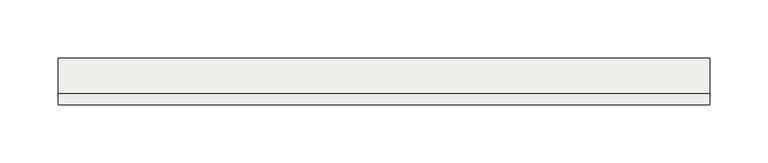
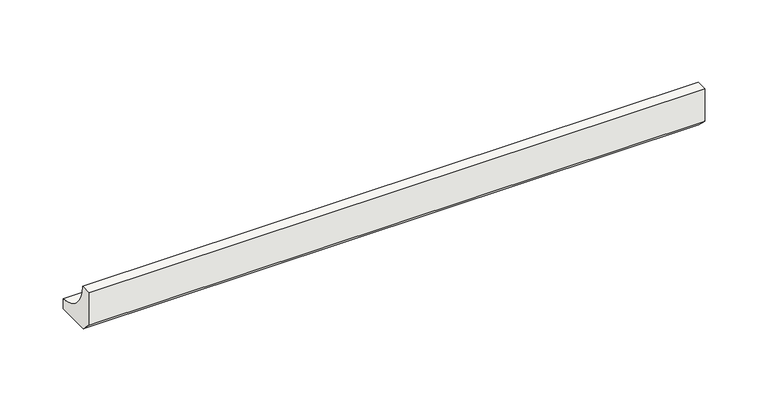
"""IFC4 building model written with IfcOpenShell, lengths in millimetres: slab geometry, ROSA GRES_112 : Pieza 112_Aqua_Plomo_Liso."""

from ifc_helpers import new_model, si_unit, point, frame, frame_2d, origin, place, context, project, spatial, polyline, circle_curve, trimmed, segment, composite_curve, outline, extrude, source, transform, mapped, element, save


def slab_a584c216(model_context):
    return source(origin(), model_context, "Body", "SweptSolid", [
        extrude(outline(composite_curve([segment(polyline([(0.0, 8.7114978), (0.0, 40.0), (9.9734114, 40.0)]), True, "CONTINUOUS"), segment(trimmed(circle_curve(frame_2d((39.9955547, 39.9955547)), 30.0221435), [point((9.9734114, 40.0))], [point((40.0, 9.9734114))], True, "CARTESIAN"), True, "CONTINUOUS"), segment(polyline([(40.0, 9.9734114), (40.0, 0.0), (8.7114978, 0.0), (0.0, 8.7114978)]), True, "CONTINUOUS")], self_intersect=False)), frame((0.0, 0.0, 0.0), z_axis=(1.0, 0.0, 0.0), x_axis=(0.0, 1.0, 0.0)), (0.0, 0.0, 1.0), 559.875),
    ])


if __name__ == "__main__":
    model = new_model("IFC4")
    model_context = context("Model", 3, world=origin())
    ifc_project = project(units=[si_unit("LENGTHUNIT", "METRE", prefix="MILLI")], contexts=[model_context])
    site = spatial("IfcSite", under=ifc_project)
    building = spatial("IfcBuilding", under=site)
    placement = place(None, origin())
    slab_shape = slab_a584c216(model_context)
    element("IfcSlab", 1, ObjectType="ROSA GRES_112 : Pieza 112_Aqua_Plomo_Liso", at=placement, inside=building, context=model_context, shape_type="MappedRepresentation", body=[
        mapped(slab_shape, transform((0.0, 0.0, 0.0), x_axis=(1.0, 0.0, 0.0), y_axis=(0.0, 1.0, 0.0), z_axis=(0.0, 0.0, 1.0))),
    ])
    save(model, "model.ifc")
